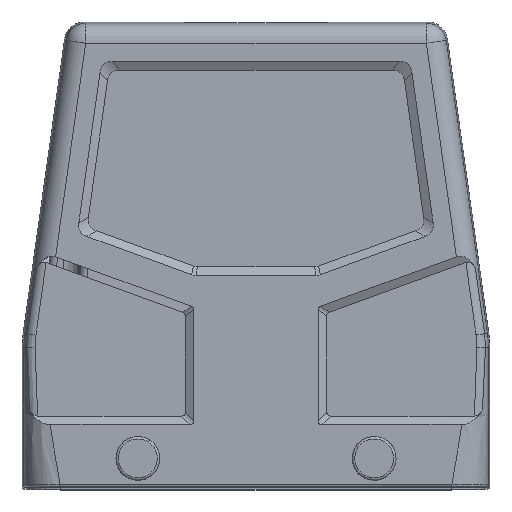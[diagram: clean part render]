
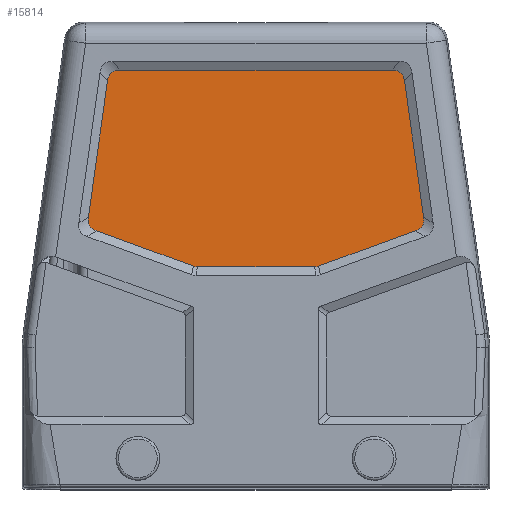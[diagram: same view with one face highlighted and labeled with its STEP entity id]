
A CAD part, top view. The second image highlights one B-rep face of the part: STEP entity #15814.
In plain terms, the highlighted planar face has unit normal (0, 0, 1).
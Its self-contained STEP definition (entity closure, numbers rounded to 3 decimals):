
#118 = FACE_OUTER_BOUND ( 'NONE', #11474, .T. ) ;
#137 = VECTOR ( 'NONE', #15486, 1000. ) ;
#901 = CARTESIAN_POINT ( 'NONE',  ( 33.699, 6.459, 40.25 ) ) ;
#1522 = CARTESIAN_POINT ( 'NONE',  ( 29.745, 35.812, 40.25 ) ) ;
#1671 = CARTESIAN_POINT ( 'NONE',  ( -27.367, 37.268, 40.25 ) ) ;
#1704 = ORIENTED_EDGE ( 'NONE', *, *, #16018, .T. ) ;
#1898 = VERTEX_POINT ( 'NONE', #15565 ) ;
#2138 = CARTESIAN_POINT ( 'NONE',  ( 33.7, 7.667, 40.25 ) ) ;
#2254 = ORIENTED_EDGE ( 'NONE', *, *, #17971, .T. ) ;
#2320 = LINE ( 'NONE', #15529, #12746 ) ;
#2325 = CARTESIAN_POINT ( 'NONE',  ( 32.08, 4.97, 40.25 ) ) ;
#2332 = VERTEX_POINT ( 'NONE', #18153 ) ;
#2554 = CARTESIAN_POINT ( 'NONE',  ( -37.089, -4., 40.25 ) ) ;
#2639 = EDGE_CURVE ( 'NONE', #12487, #1898, #6296, .T. ) ;
#2861 = CARTESIAN_POINT ( 'NONE',  ( -31.046, -2.268, 40.25 ) ) ;
#2888 = CARTESIAN_POINT ( 'NONE',  ( -11.754, -2.268, 40.25 ) ) ;
#2962 = CARTESIAN_POINT ( 'NONE',  ( 28.635, 37.084, 40.25 ) ) ;
#3162 = VERTEX_POINT ( 'NONE', #3225 ) ;
#3172 = B_SPLINE_CURVE_WITH_KNOTS ( 'NONE', 3,
 ( #15514, #9798, #4289, #4166, #6988, #18318 ),
 .UNSPECIFIED., .F., .F.,
 ( 4, 2, 4 ),
 ( 0., 0.5, 1. ),
 .UNSPECIFIED. ) ;
#3225 = CARTESIAN_POINT ( 'NONE',  ( 29.843, 35.116, 40.25 ) ) ;
#3327 = DIRECTION ( 'NONE',  ( -0.139, 0.99, 0. ) ) ;
#3608 = DIRECTION ( 'NONE',  ( 0.94, 0.342, 0. ) ) ;
#3778 = CARTESIAN_POINT ( 'NONE',  ( -29.483, 36.346, 40.25 ) ) ;
#3953 = ORIENTED_EDGE ( 'NONE', *, *, #8327, .T. ) ;
#3987 = CARTESIAN_POINT ( 'NONE',  ( -12.333, -2.218, 40.25 ) ) ;
#4027 = DIRECTION ( 'NONE',  ( -1., 0., 0. ) ) ;
#4166 = CARTESIAN_POINT ( 'NONE',  ( -33.145, 5.538, 40.25 ) ) ;
#4209 = DIRECTION ( 'NONE',  ( 1., 0., 0. ) ) ;
#4289 = CARTESIAN_POINT ( 'NONE',  ( -33.698, 6.46, 40.25 ) ) ;
#4364 = CARTESIAN_POINT ( 'NONE',  ( 27.367, 37.268, 40.25 ) ) ;
#5032 = ORIENTED_EDGE ( 'NONE', *, *, #8439, .T. ) ;
#5064 = LINE ( 'NONE', #6794, #7272 ) ;
#5110 = CARTESIAN_POINT ( 'NONE',  ( 33.792, 7.016, 40.25 ) ) ;
#5133 = CARTESIAN_POINT ( 'NONE',  ( -29.745, 35.813, 40.25 ) ) ;
#5448 = CARTESIAN_POINT ( 'NONE',  ( 12.609, -2.117, 40.25 ) ) ;
#5469 = ORIENTED_EDGE ( 'NONE', *, *, #16397, .T. ) ;
#6207 = VERTEX_POINT ( 'NONE', #1671 ) ;
#6296 = LINE ( 'NONE', #12098, #14127 ) ;
#6583 = CARTESIAN_POINT ( 'NONE',  ( 33.145, 5.538, 40.25 ) ) ;
#6668 = CARTESIAN_POINT ( 'NONE',  ( -29.843, 35.116, 40.25 ) ) ;
#6776 = EDGE_CURVE ( 'NONE', #12015, #14233, #3172, .T. ) ;
#6794 = CARTESIAN_POINT ( 'NONE',  ( -31.046, 37.268, 40.25 ) ) ;
#6880 = B_SPLINE_CURVE_WITH_KNOTS ( 'NONE', 3,
 ( #7534, #18052, #9270, #3778, #5133, #6668 ),
 .UNSPECIFIED., .F., .F.,
 ( 4, 2, 4 ),
 ( 0., 0.5, 1. ),
 .UNSPECIFIED. ) ;
#6955 = ORIENTED_EDGE ( 'NONE', *, *, #16623, .T. ) ;
#6988 = CARTESIAN_POINT ( 'NONE',  ( -32.698, 5.195, 40.25 ) ) ;
#7272 = VECTOR ( 'NONE', #4027, 1000. ) ;
#7534 = CARTESIAN_POINT ( 'NONE',  ( -27.367, 37.268, 40.25 ) ) ;
#7616 = CARTESIAN_POINT ( 'NONE',  ( 11.754, -2.268, 40.25 ) ) ;
#7715 = CARTESIAN_POINT ( 'NONE',  ( 12.333, -2.218, 40.25 ) ) ;
#8031 = CARTESIAN_POINT ( 'NONE',  ( 33.7, 7.667, 40.25 ) ) ;
#8200 = B_SPLINE_CURVE_WITH_KNOTS ( 'NONE', 3,
 ( #18005, #3987, #10853, #18071 ),
 .UNSPECIFIED., .F., .F.,
 ( 4, 4 ),
 ( 0., 1. ),
 .UNSPECIFIED. ) ;
#8327 = EDGE_CURVE ( 'NONE', #14233, #2332, #9556, .T. ) ;
#8439 = EDGE_CURVE ( 'NONE', #10828, #12487, #11455, .T. ) ;
#9270 = CARTESIAN_POINT ( 'NONE',  ( -28.635, 37.083, 40.25 ) ) ;
#9273 = CARTESIAN_POINT ( 'NONE',  ( 11.754, -2.268, 40.25 ) ) ;
#9298 = CARTESIAN_POINT ( 'NONE',  ( -33.7, 7.667, 40.25 ) ) ;
#9395 = ORIENTED_EDGE ( 'NONE', *, *, #16702, .T. ) ;
#9524 = ORIENTED_EDGE ( 'NONE', *, *, #15109, .T. ) ;
#9525 = PLANE ( 'NONE',  #10513 ) ;
#9556 = LINE ( 'NONE', #17244, #16880 ) ;
#9646 = LINE ( 'NONE', #2861, #17632 ) ;
#9737 = CARTESIAN_POINT ( 'NONE',  ( -32.08, 4.97, 40.25 ) ) ;
#9754 = ORIENTED_EDGE ( 'NONE', *, *, #2639, .T. ) ;
#9798 = CARTESIAN_POINT ( 'NONE',  ( -33.792, 7.016, 40.25 ) ) ;
#10116 = LINE ( 'NONE', #15167, #137 ) ;
#10513 = AXIS2_PLACEMENT_3D ( 'NONE', #2554, #10896, #10958 ) ;
#10695 = CARTESIAN_POINT ( 'NONE',  ( 32.697, 5.194, 40.25 ) ) ;
#10779 = CARTESIAN_POINT ( 'NONE',  ( 12.609, -2.117, 40.25 ) ) ;
#10828 = VERTEX_POINT ( 'NONE', #7616 ) ;
#10853 = CARTESIAN_POINT ( 'NONE',  ( -12.048, -2.268, 40.25 ) ) ;
#10896 = DIRECTION ( 'NONE',  ( 0., 0., 1. ) ) ;
#10958 = DIRECTION ( 'NONE',  ( 1., 0., 0. ) ) ;
#11308 = CARTESIAN_POINT ( 'NONE',  ( 29.843, 35.116, 40.25 ) ) ;
#11436 = CARTESIAN_POINT ( 'NONE',  ( 29.483, 36.346, 40.25 ) ) ;
#11455 = B_SPLINE_CURVE_WITH_KNOTS ( 'NONE', 3,
 ( #9273, #13451, #7715, #10779 ),
 .UNSPECIFIED., .F., .F.,
 ( 4, 4 ),
 ( 0., 1. ),
 .UNSPECIFIED. ) ;
#11474 = EDGE_LOOP ( 'NONE', ( #5032, #9754, #5469, #9395, #6955, #12774, #13297, #9524, #11959, #3953, #2254, #1704 ) ) ;
#11553 = EDGE_CURVE ( 'NONE', #6207, #12710, #6880, .T. ) ;
#11603 = EDGE_CURVE ( 'NONE', #17243, #6207, #5064, .T. ) ;
#11959 = ORIENTED_EDGE ( 'NONE', *, *, #6776, .T. ) ;
#12015 = VERTEX_POINT ( 'NONE', #9298 ) ;
#12098 = CARTESIAN_POINT ( 'NONE',  ( 12.609, -2.117, 40.25 ) ) ;
#12116 = VERTEX_POINT ( 'NONE', #2888 ) ;
#12426 = VERTEX_POINT ( 'NONE', #8031 ) ;
#12487 = VERTEX_POINT ( 'NONE', #5448 ) ;
#12710 = VERTEX_POINT ( 'NONE', #14184 ) ;
#12746 = VECTOR ( 'NONE', #3327, 1000. ) ;
#12774 = ORIENTED_EDGE ( 'NONE', *, *, #11603, .T. ) ;
#12863 = CARTESIAN_POINT ( 'NONE',  ( 28.071, 37.268, 40.25 ) ) ;
#12867 = B_SPLINE_CURVE_WITH_KNOTS ( 'NONE', 3,
 ( #2325, #10695, #6583, #901, #5110, #2138 ),
 .UNSPECIFIED., .F., .F.,
 ( 4, 2, 4 ),
 ( 0., 0.5, 1. ),
 .UNSPECIFIED. ) ;
#13297 = ORIENTED_EDGE ( 'NONE', *, *, #11553, .T. ) ;
#13451 = CARTESIAN_POINT ( 'NONE',  ( 12.048, -2.268, 40.25 ) ) ;
#14127 = VECTOR ( 'NONE', #3608, 1000. ) ;
#14184 = CARTESIAN_POINT ( 'NONE',  ( -29.843, 35.116, 40.25 ) ) ;
#14233 = VERTEX_POINT ( 'NONE', #9737 ) ;
#15109 = EDGE_CURVE ( 'NONE', #12710, #12015, #10116, .T. ) ;
#15167 = CARTESIAN_POINT ( 'NONE',  ( -29.843, 35.116, 40.25 ) ) ;
#15429 = CARTESIAN_POINT ( 'NONE',  ( 27.367, 37.268, 40.25 ) ) ;
#15486 = DIRECTION ( 'NONE',  ( -0.139, -0.99, 0. ) ) ;
#15514 = CARTESIAN_POINT ( 'NONE',  ( -33.7, 7.667, 40.25 ) ) ;
#15529 = CARTESIAN_POINT ( 'NONE',  ( 33.7, 7.667, 40.25 ) ) ;
#15565 = CARTESIAN_POINT ( 'NONE',  ( 32.08, 4.97, 40.25 ) ) ;
#15814 = ADVANCED_FACE ( 'NONE', ( #118 ), #9525, .T. ) ;
#16018 = EDGE_CURVE ( 'NONE', #12116, #10828, #9646, .T. ) ;
#16397 = EDGE_CURVE ( 'NONE', #1898, #12426, #12867, .T. ) ;
#16623 = EDGE_CURVE ( 'NONE', #3162, #17243, #17867, .T. ) ;
#16702 = EDGE_CURVE ( 'NONE', #12426, #3162, #2320, .T. ) ;
#16880 = VECTOR ( 'NONE', #17601, 1000. ) ;
#17243 = VERTEX_POINT ( 'NONE', #15429 ) ;
#17244 = CARTESIAN_POINT ( 'NONE',  ( -32.08, 4.97, 40.25 ) ) ;
#17601 = DIRECTION ( 'NONE',  ( 0.94, -0.342, 0. ) ) ;
#17632 = VECTOR ( 'NONE', #4209, 1000. ) ;
#17867 = B_SPLINE_CURVE_WITH_KNOTS ( 'NONE', 3,
 ( #11308, #1522, #11436, #2962, #12863, #4364 ),
 .UNSPECIFIED., .F., .F.,
 ( 4, 2, 4 ),
 ( 0., 0.5, 1. ),
 .UNSPECIFIED. ) ;
#17971 = EDGE_CURVE ( 'NONE', #2332, #12116, #8200, .T. ) ;
#18005 = CARTESIAN_POINT ( 'NONE',  ( -12.609, -2.117, 40.25 ) ) ;
#18052 = CARTESIAN_POINT ( 'NONE',  ( -28.07, 37.268, 40.25 ) ) ;
#18071 = CARTESIAN_POINT ( 'NONE',  ( -11.754, -2.268, 40.25 ) ) ;
#18153 = CARTESIAN_POINT ( 'NONE',  ( -12.609, -2.117, 40.25 ) ) ;
#18318 = CARTESIAN_POINT ( 'NONE',  ( -32.08, 4.97, 40.25 ) ) ;
